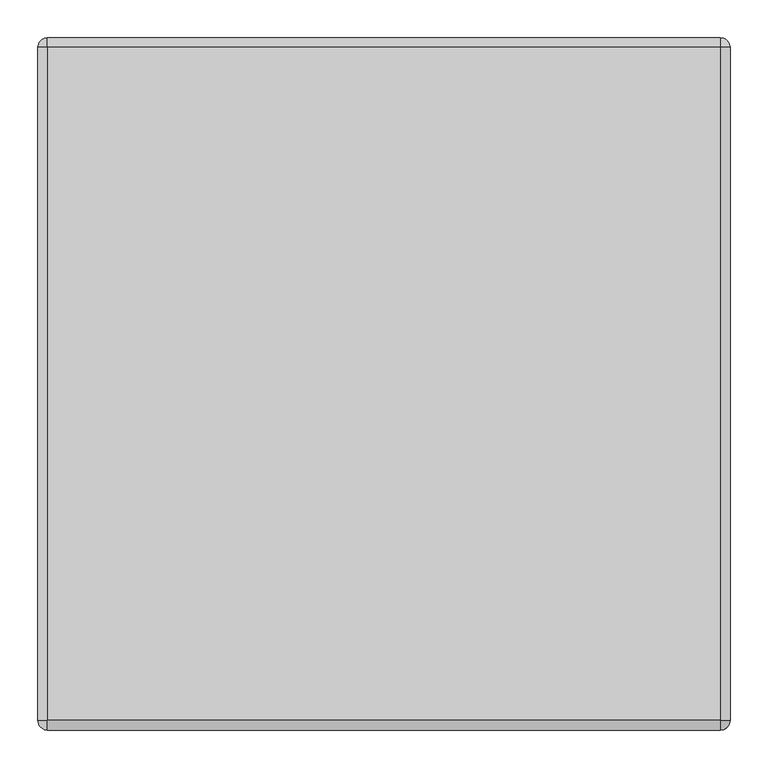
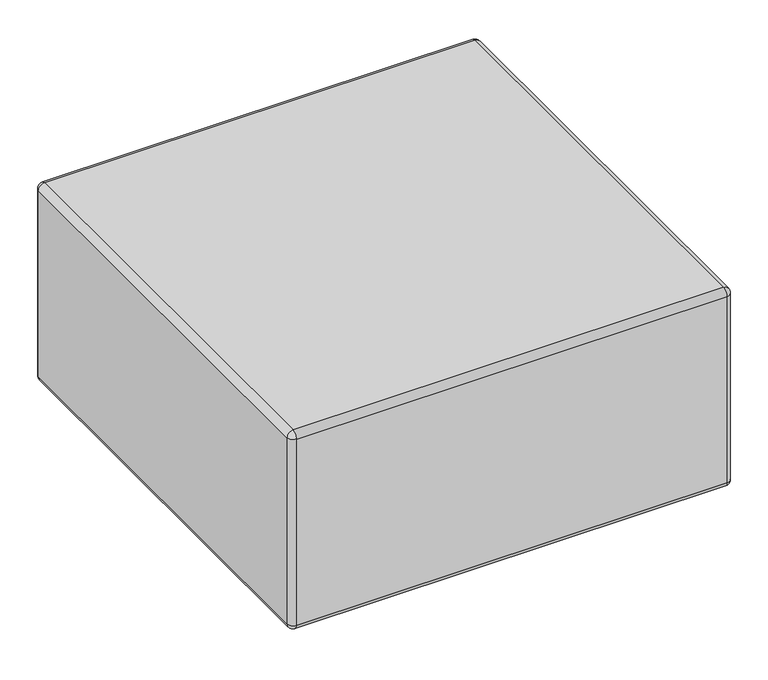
"""IFC4 building model written with IfcOpenShell, lengths in millimetres: furniture geometry, KFI Studios - Conversa : 36”x36” Seat."""

from ifc_helpers import new_model, si_unit, point, frame, origin, place, context, project, spatial, polyline, circle_curve, ellipse_curve, trimmed, source, transform, mapped, element, save
from ifc_brep_helpers import plane_surface, cylinder_surface, revolved_surface, advanced_brep


def furniture_a2253782(model_context):
    return source(origin(), model_context, "Body", "AdvancedBrep", [
        advanced_brep(
        [(373.3895895, 365.125, 25.4), (365.125, 365.125, 25.4), (356.8604105, 365.125, 25.4), (373.3895895, 365.125, 14.2843611), (356.8604105, 365.125, 14.2843611), (371.7876354, 365.125, 14.2843611), (358.4623646, 365.125, 14.2843611), (371.7876354, 365.125, 12.7064551), (358.4623646, 365.125, 12.7064551), (373.3890671, 365.125, 12.7064551), (356.8609329, 365.125, 12.7064551), (382.5741215, 365.125, 3.1950529), (347.6758785, 365.125, 3.1950529), (382.5741215, 365.125, 0.0), (347.6758785, 365.125, 0.0), (365.125, 365.125, 0.0)],
        [
            (0, 1),
            (1, 2),
            (2, 0, circle_curve(frame((365.125, 365.125, 25.4), z_axis=(0.0, 0.0, 1.0), x_axis=(-1.0, 0.0, 0.0)), 8.2645895)),
            (0, 2, circle_curve(frame((365.125, 365.125, 25.4), z_axis=(0.0, 0.0, 1.0), x_axis=(-1.0, 0.0, 0.0)), 8.2645895)),
            (3, 0),
            (2, 4),
            (4, 3, circle_curve(frame((365.125, 365.125, 14.2843611), z_axis=(0.0, 0.0, 1.0), x_axis=(-1.0, 0.0, 0.0)), 8.2645895)),
            (3, 4, circle_curve(frame((365.125, 365.125, 14.2843611), z_axis=(0.0, 0.0, 1.0), x_axis=(-1.0, 0.0, 0.0)), 8.2645895)),
            (5, 3),
            (4, 6),
            (6, 5, circle_curve(frame((365.125, 365.125, 14.2843611), z_axis=(0.0, 0.0, 1.0), x_axis=(-1.0, 0.0, 0.0)), 6.6626354)),
            (5, 6, circle_curve(frame((365.125, 365.125, 14.2843611), z_axis=(0.0, 0.0, 1.0), x_axis=(-1.0, 0.0, 0.0)), 6.6626354)),
            (7, 5),
            (6, 8),
            (8, 7, circle_curve(frame((365.125, 365.125, 12.7064551), z_axis=(0.0, 0.0, 1.0), x_axis=(-1.0, 0.0, 0.0)), 6.6626354)),
            (7, 8, circle_curve(frame((365.125, 365.125, 12.7064551), z_axis=(0.0, 0.0, 1.0), x_axis=(-1.0, 0.0, 0.0)), 6.6626354)),
            (9, 7),
            (8, 10),
            (10, 9, circle_curve(frame((365.125, 365.125, 12.7064551), z_axis=(0.0, 0.0, 1.0), x_axis=(-1.0, 0.0, 0.0)), 8.2640671)),
            (9, 10, circle_curve(frame((365.125, 365.125, 12.7064551), z_axis=(0.0, 0.0, 1.0), x_axis=(-1.0, 0.0, 0.0)), 8.2640671)),
            (11, 9),
            (10, 12),
            (12, 11, circle_curve(frame((365.125, 365.125, 3.1950529), z_axis=(0.0, 0.0, 1.0), x_axis=(-1.0, 0.0, 0.0)), 17.4491215)),
            (11, 12, circle_curve(frame((365.125, 365.125, 3.1950529), z_axis=(0.0, 0.0, 1.0), x_axis=(-1.0, 0.0, 0.0)), 17.4491215)),
            (13, 11),
            (12, 14),
            (14, 13, circle_curve(frame((365.125, 365.125, 0.0), z_axis=(0.0, 0.0, 1.0), x_axis=(-1.0, 0.0, 0.0)), 17.4491215)),
            (13, 14, circle_curve(frame((365.125, 365.125, 0.0), z_axis=(0.0, 0.0, 1.0), x_axis=(-1.0, 0.0, 0.0)), 17.4491215)),
            (15, 13),
            (14, 15),
        ],
        [
            plane_surface(frame((365.125, 365.125, 25.4), z_axis=(0.0, 0.0, 1.0), x_axis=(-1.0, 0.0, 0.0))),
            cylinder_surface(frame((365.125, 365.125, 33.820929), z_axis=(0.0, 0.0, -1.0), x_axis=(-1.0, 0.0, 0.0)), 8.2645895),
            plane_surface(frame((365.125, 365.125, 14.2843611), z_axis=(0.0, 0.0, -1.0), x_axis=(-1.0, 0.0, 0.0))),
            cylinder_surface(frame((365.125, 365.125, 33.820929), z_axis=(0.0, 0.0, -1.0), x_axis=(-1.0, 0.0, 0.0)), 6.6626354),
            plane_surface(frame((365.125, 365.125, 12.7064551), z_axis=(0.0, 0.0, 1.0), x_axis=(-1.0, 0.0, 0.0))),
            revolved_surface(polyline([(356.8609329, 365.125, 12.7064551), (347.6758785, 365.125, 3.1950529)]), (365.125, 365.125, 33.820929), (0.0, 0.0, -1.0)),
            cylinder_surface(frame((365.125, 365.125, 33.820929), z_axis=(0.0, 0.0, -1.0), x_axis=(-1.0, 0.0, 0.0)), 17.4491215),
            plane_surface(frame((365.125, 365.125, 0.0), z_axis=(0.0, 0.0, -1.0), x_axis=(-1.0, 0.0, 0.0))),
        ],
        [
            (0, [[1, 2, 3]]),
            (0, [[-2, -1, 4]]),
            (1, [[5, -3, 6, 7]]),
            (1, [[-6, -4, -5, 8]]),
            (2, [[9, -7, 10, 11]]),
            (2, [[-10, -8, -9, 12]]),
            (3, [[13, -11, 14, 15]]),
            (3, [[-14, -12, -13, 16]]),
            (4, [[17, -15, 18, 19]]),
            (4, [[-18, -16, -17, 20]]),
            (5, [[21, -19, 22, 23]]),
            (5, [[-22, -20, -21, 24]]),
            (6, [[25, -23, 26, 27]]),
            (6, [[-26, -24, -25, 28]]),
            (7, [[29, -27, 30]]),
            (7, [[-30, -28, -29]]),
        ],
    ),
        advanced_brep(
        [(-356.8604105, 365.125, 25.4), (-365.125, 365.125, 25.4), (-373.3895895, 365.125, 25.4), (-356.8604105, 365.125, 14.2843611), (-373.3895895, 365.125, 14.2843611), (-358.4623646, 365.125, 14.2843611), (-371.7876354, 365.125, 14.2843611), (-358.4623646, 365.125, 12.7064551), (-371.7876354, 365.125, 12.7064551), (-356.8609329, 365.125, 12.7064551), (-373.3890671, 365.125, 12.7064551), (-347.6758785, 365.125, 3.1950529), (-382.5741215, 365.125, 3.1950529), (-347.6758785, 365.125, 0.0), (-382.5741215, 365.125, 0.0), (-365.125, 365.125, 0.0)],
        [
            (0, 1),
            (1, 2),
            (2, 0, circle_curve(frame((-365.125, 365.125, 25.4), z_axis=(0.0, 0.0, 1.0), x_axis=(-1.0, 0.0, 0.0)), 8.2645895)),
            (0, 2, circle_curve(frame((-365.125, 365.125, 25.4), z_axis=(0.0, 0.0, 1.0), x_axis=(-1.0, 0.0, 0.0)), 8.2645895)),
            (3, 0),
            (2, 4),
            (4, 3, circle_curve(frame((-365.125, 365.125, 14.2843611), z_axis=(0.0, 0.0, 1.0), x_axis=(-1.0, 0.0, 0.0)), 8.2645895)),
            (3, 4, circle_curve(frame((-365.125, 365.125, 14.2843611), z_axis=(0.0, 0.0, 1.0), x_axis=(-1.0, 0.0, 0.0)), 8.2645895)),
            (5, 3),
            (4, 6),
            (6, 5, circle_curve(frame((-365.125, 365.125, 14.2843611), z_axis=(0.0, 0.0, 1.0), x_axis=(-1.0, 0.0, 0.0)), 6.6626354)),
            (5, 6, circle_curve(frame((-365.125, 365.125, 14.2843611), z_axis=(0.0, 0.0, 1.0), x_axis=(-1.0, 0.0, 0.0)), 6.6626354)),
            (7, 5),
            (6, 8),
            (8, 7, circle_curve(frame((-365.125, 365.125, 12.7064551), z_axis=(0.0, 0.0, 1.0), x_axis=(-1.0, 0.0, 0.0)), 6.6626354)),
            (7, 8, circle_curve(frame((-365.125, 365.125, 12.7064551), z_axis=(0.0, 0.0, 1.0), x_axis=(-1.0, 0.0, 0.0)), 6.6626354)),
            (9, 7),
            (8, 10),
            (10, 9, circle_curve(frame((-365.125, 365.125, 12.7064551), z_axis=(0.0, 0.0, 1.0), x_axis=(-1.0, 0.0, 0.0)), 8.2640671)),
            (9, 10, circle_curve(frame((-365.125, 365.125, 12.7064551), z_axis=(0.0, 0.0, 1.0), x_axis=(-1.0, 0.0, 0.0)), 8.2640671)),
            (11, 9),
            (10, 12),
            (12, 11, circle_curve(frame((-365.125, 365.125, 3.1950529), z_axis=(0.0, 0.0, 1.0), x_axis=(-1.0, 0.0, 0.0)), 17.4491215)),
            (11, 12, circle_curve(frame((-365.125, 365.125, 3.1950529), z_axis=(0.0, 0.0, 1.0), x_axis=(-1.0, 0.0, 0.0)), 17.4491215)),
            (13, 11),
            (12, 14),
            (14, 13, circle_curve(frame((-365.125, 365.125, 0.0), z_axis=(0.0, 0.0, 1.0), x_axis=(-1.0, 0.0, 0.0)), 17.4491215)),
            (13, 14, circle_curve(frame((-365.125, 365.125, 0.0), z_axis=(0.0, 0.0, 1.0), x_axis=(-1.0, 0.0, 0.0)), 17.4491215)),
            (15, 13),
            (14, 15),
        ],
        [
            plane_surface(frame((-365.125, 365.125, 25.4), z_axis=(0.0, 0.0, 1.0), x_axis=(-1.0, 0.0, 0.0))),
            cylinder_surface(frame((-365.125, 365.125, 33.820929), z_axis=(0.0, 0.0, -1.0), x_axis=(-1.0, 0.0, 0.0)), 8.2645895),
            plane_surface(frame((-365.125, 365.125, 14.2843611), z_axis=(0.0, 0.0, -1.0), x_axis=(-1.0, 0.0, 0.0))),
            cylinder_surface(frame((-365.125, 365.125, 33.820929), z_axis=(0.0, 0.0, -1.0), x_axis=(-1.0, 0.0, 0.0)), 6.6626354),
            plane_surface(frame((-365.125, 365.125, 12.7064551), z_axis=(0.0, 0.0, 1.0), x_axis=(-1.0, 0.0, 0.0))),
            revolved_surface(polyline([(-373.3890671, 365.125, 12.7064551), (-382.5741215, 365.125, 3.1950529)]), (-365.125, 365.125, 33.820929), (0.0, 0.0, -1.0)),
            cylinder_surface(frame((-365.125, 365.125, 33.820929), z_axis=(0.0, 0.0, -1.0), x_axis=(-1.0, 0.0, 0.0)), 17.4491215),
            plane_surface(frame((-365.125, 365.125, 0.0), z_axis=(0.0, 0.0, -1.0), x_axis=(-1.0, 0.0, 0.0))),
        ],
        [
            (0, [[1, 2, 3]]),
            (0, [[-2, -1, 4]]),
            (1, [[5, -3, 6, 7]]),
            (1, [[-6, -4, -5, 8]]),
            (2, [[9, -7, 10, 11]]),
            (2, [[-10, -8, -9, 12]]),
            (3, [[13, -11, 14, 15]]),
            (3, [[-14, -12, -13, 16]]),
            (4, [[17, -15, 18, 19]]),
            (4, [[-18, -16, -17, 20]]),
            (5, [[21, -19, 22, 23]]),
            (5, [[-22, -20, -21, 24]]),
            (6, [[25, -23, 26, 27]]),
            (6, [[-26, -24, -25, 28]]),
            (7, [[29, -27, 30]]),
            (7, [[-30, -28, -29]]),
        ],
    ),
        advanced_brep(
        [(373.3895895, -365.125, 25.4), (356.8604105, -365.125, 25.4), (365.125, -365.125, 25.4), (373.3895895, -365.125, 14.2843611), (356.8604105, -365.125, 14.2843611), (371.7876354, -365.125, 14.2843611), (358.4623646, -365.125, 14.2843611), (371.7876354, -365.125, 12.7064551), (358.4623646, -365.125, 12.7064551), (373.3890671, -365.125, 12.7064551), (356.8609329, -365.125, 12.7064551), (382.5741215, -365.125, 3.1950529), (347.6758785, -365.125, 3.1950529), (382.5741215, -365.125, 0.0), (347.6758785, -365.125, 0.0), (365.125, -365.125, 0.0)],
        [
            (0, 1, circle_curve(frame((365.125, -365.125, 25.4), z_axis=(0.0, 0.0, 1.0), x_axis=(-1.0, 0.0, 0.0)), 8.2645895)),
            (1, 2),
            (2, 0),
            (1, 0, circle_curve(frame((365.125, -365.125, 25.4), z_axis=(0.0, 0.0, 1.0), x_axis=(-1.0, 0.0, 0.0)), 8.2645895)),
            (3, 4, circle_curve(frame((365.125, -365.125, 14.2843611), z_axis=(0.0, 0.0, 1.0), x_axis=(-1.0, 0.0, 0.0)), 8.2645895)),
            (4, 1),
            (0, 3),
            (4, 3, circle_curve(frame((365.125, -365.125, 14.2843611), z_axis=(0.0, 0.0, 1.0), x_axis=(-1.0, 0.0, 0.0)), 8.2645895)),
            (5, 6, circle_curve(frame((365.125, -365.125, 14.2843611), z_axis=(0.0, 0.0, 1.0), x_axis=(-1.0, 0.0, 0.0)), 6.6626354)),
            (6, 4),
            (3, 5),
            (6, 5, circle_curve(frame((365.125, -365.125, 14.2843611), z_axis=(0.0, 0.0, 1.0), x_axis=(-1.0, 0.0, 0.0)), 6.6626354)),
            (7, 8, circle_curve(frame((365.125, -365.125, 12.7064551), z_axis=(0.0, 0.0, 1.0), x_axis=(-1.0, 0.0, 0.0)), 6.6626354)),
            (8, 6),
            (5, 7),
            (8, 7, circle_curve(frame((365.125, -365.125, 12.7064551), z_axis=(0.0, 0.0, 1.0), x_axis=(-1.0, 0.0, 0.0)), 6.6626354)),
            (9, 10, circle_curve(frame((365.125, -365.125, 12.7064551), z_axis=(0.0, 0.0, 1.0), x_axis=(-1.0, 0.0, 0.0)), 8.2640671)),
            (10, 8),
            (7, 9),
            (10, 9, circle_curve(frame((365.125, -365.125, 12.7064551), z_axis=(0.0, 0.0, 1.0), x_axis=(-1.0, 0.0, 0.0)), 8.2640671)),
            (11, 12, circle_curve(frame((365.125, -365.125, 3.1950529), z_axis=(0.0, 0.0, 1.0), x_axis=(-1.0, 0.0, 0.0)), 17.4491215)),
            (12, 10),
            (9, 11),
            (12, 11, circle_curve(frame((365.125, -365.125, 3.1950529), z_axis=(0.0, 0.0, 1.0), x_axis=(-1.0, 0.0, 0.0)), 17.4491215)),
            (13, 14, circle_curve(frame((365.125, -365.125, 0.0), z_axis=(0.0, 0.0, 1.0), x_axis=(-1.0, 0.0, 0.0)), 17.4491215)),
            (14, 12),
            (11, 13),
            (14, 13, circle_curve(frame((365.125, -365.125, 0.0), z_axis=(0.0, 0.0, 1.0), x_axis=(-1.0, 0.0, 0.0)), 17.4491215)),
            (15, 14),
            (13, 15),
        ],
        [
            plane_surface(frame((365.125, -365.125, 25.4), z_axis=(0.0, 0.0, 1.0), x_axis=(-1.0, 0.0, 0.0))),
            cylinder_surface(frame((365.125, -365.125, 33.820929), z_axis=(0.0, 0.0, -1.0), x_axis=(-1.0, 0.0, 0.0)), 8.2645895),
            plane_surface(frame((365.125, -365.125, 14.2843611), z_axis=(0.0, 0.0, -1.0), x_axis=(-1.0, 0.0, 0.0))),
            cylinder_surface(frame((365.125, -365.125, 33.820929), z_axis=(0.0, 0.0, -1.0), x_axis=(-1.0, 0.0, 0.0)), 6.6626354),
            plane_surface(frame((365.125, -365.125, 12.7064551), z_axis=(0.0, 0.0, 1.0), x_axis=(-1.0, 0.0, 0.0))),
            revolved_surface(polyline([(356.8609329, -365.125, 12.7064551), (347.6758785, -365.125, 3.1950529)]), (365.125, -365.125, 33.820929), (0.0, 0.0, -1.0)),
            cylinder_surface(frame((365.125, -365.125, 33.820929), z_axis=(0.0, 0.0, -1.0), x_axis=(-1.0, 0.0, 0.0)), 17.4491215),
            plane_surface(frame((365.125, -365.125, 0.0), z_axis=(0.0, 0.0, -1.0), x_axis=(-1.0, 0.0, 0.0))),
        ],
        [
            (0, [[1, 2, 3]]),
            (0, [[4, -3, -2]]),
            (1, [[5, 6, -1, 7]]),
            (1, [[8, -7, -4, -6]]),
            (2, [[9, 10, -5, 11]]),
            (2, [[12, -11, -8, -10]]),
            (3, [[13, 14, -9, 15]]),
            (3, [[16, -15, -12, -14]]),
            (4, [[17, 18, -13, 19]]),
            (4, [[20, -19, -16, -18]]),
            (5, [[21, 22, -17, 23]]),
            (5, [[24, -23, -20, -22]]),
            (6, [[25, 26, -21, 27]]),
            (6, [[28, -27, -24, -26]]),
            (7, [[29, -25, 30]]),
            (7, [[-30, -28, -29]]),
        ],
    ),
        advanced_brep(
        [(-356.8604105, -365.125, 25.4), (-373.3895895, -365.125, 25.4), (-365.125, -365.125, 25.4), (-356.8604105, -365.125, 14.2843611), (-373.3895895, -365.125, 14.2843611), (-358.4623646, -365.125, 14.2843611), (-371.7876354, -365.125, 14.2843611), (-358.4623646, -365.125, 12.7064551), (-371.7876354, -365.125, 12.7064551), (-356.8609329, -365.125, 12.7064551), (-373.3890671, -365.125, 12.7064551), (-347.6758785, -365.125, 3.1950529), (-382.5741215, -365.125, 3.1950529), (-347.6758785, -365.125, 0.0), (-382.5741215, -365.125, 0.0), (-365.125, -365.125, 0.0)],
        [
            (0, 1, circle_curve(frame((-365.125, -365.125, 25.4), z_axis=(0.0, 0.0, 1.0), x_axis=(-1.0, 0.0, 0.0)), 8.2645895)),
            (1, 2),
            (2, 0),
            (1, 0, circle_curve(frame((-365.125, -365.125, 25.4), z_axis=(0.0, 0.0, 1.0), x_axis=(-1.0, 0.0, 0.0)), 8.2645895)),
            (3, 4, circle_curve(frame((-365.125, -365.125, 14.2843611), z_axis=(0.0, 0.0, 1.0), x_axis=(-1.0, 0.0, 0.0)), 8.2645895)),
            (4, 1),
            (0, 3),
            (4, 3, circle_curve(frame((-365.125, -365.125, 14.2843611), z_axis=(0.0, 0.0, 1.0), x_axis=(-1.0, 0.0, 0.0)), 8.2645895)),
            (5, 6, circle_curve(frame((-365.125, -365.125, 14.2843611), z_axis=(0.0, 0.0, 1.0), x_axis=(-1.0, 0.0, 0.0)), 6.6626354)),
            (6, 4),
            (3, 5),
            (6, 5, circle_curve(frame((-365.125, -365.125, 14.2843611), z_axis=(0.0, 0.0, 1.0), x_axis=(-1.0, 0.0, 0.0)), 6.6626354)),
            (7, 8, circle_curve(frame((-365.125, -365.125, 12.7064551), z_axis=(0.0, 0.0, 1.0), x_axis=(-1.0, 0.0, 0.0)), 6.6626354)),
            (8, 6),
            (5, 7),
            (8, 7, circle_curve(frame((-365.125, -365.125, 12.7064551), z_axis=(0.0, 0.0, 1.0), x_axis=(-1.0, 0.0, 0.0)), 6.6626354)),
            (9, 10, circle_curve(frame((-365.125, -365.125, 12.7064551), z_axis=(0.0, 0.0, 1.0), x_axis=(-1.0, 0.0, 0.0)), 8.2640671)),
            (10, 8),
            (7, 9),
            (10, 9, circle_curve(frame((-365.125, -365.125, 12.7064551), z_axis=(0.0, 0.0, 1.0), x_axis=(-1.0, 0.0, 0.0)), 8.2640671)),
            (11, 12, circle_curve(frame((-365.125, -365.125, 3.1950529), z_axis=(0.0, 0.0, 1.0), x_axis=(-1.0, 0.0, 0.0)), 17.4491215)),
            (12, 10),
            (9, 11),
            (12, 11, circle_curve(frame((-365.125, -365.125, 3.1950529), z_axis=(0.0, 0.0, 1.0), x_axis=(-1.0, 0.0, 0.0)), 17.4491215)),
            (13, 14, circle_curve(frame((-365.125, -365.125, 0.0), z_axis=(0.0, 0.0, 1.0), x_axis=(-1.0, 0.0, 0.0)), 17.4491215)),
            (14, 12),
            (11, 13),
            (14, 13, circle_curve(frame((-365.125, -365.125, 0.0), z_axis=(0.0, 0.0, 1.0), x_axis=(-1.0, 0.0, 0.0)), 17.4491215)),
            (15, 14),
            (13, 15),
        ],
        [
            plane_surface(frame((-365.125, -365.125, 25.4), z_axis=(0.0, 0.0, 1.0), x_axis=(-1.0, 0.0, 0.0))),
            cylinder_surface(frame((-365.125, -365.125, 33.820929), z_axis=(0.0, 0.0, -1.0), x_axis=(-1.0, 0.0, 0.0)), 8.2645895),
            plane_surface(frame((-365.125, -365.125, 14.2843611), z_axis=(0.0, 0.0, -1.0), x_axis=(-1.0, 0.0, 0.0))),
            cylinder_surface(frame((-365.125, -365.125, 33.820929), z_axis=(0.0, 0.0, -1.0), x_axis=(-1.0, 0.0, 0.0)), 6.6626354),
            plane_surface(frame((-365.125, -365.125, 12.7064551), z_axis=(0.0, 0.0, 1.0), x_axis=(-1.0, 0.0, 0.0))),
            revolved_surface(polyline([(-373.3890671, -365.125, 12.7064551), (-382.5741215, -365.125, 3.1950529)]), (-365.125, -365.125, 33.820929), (0.0, 0.0, -1.0)),
            cylinder_surface(frame((-365.125, -365.125, 33.820929), z_axis=(0.0, 0.0, -1.0), x_axis=(-1.0, 0.0, 0.0)), 17.4491215),
            plane_surface(frame((-365.125, -365.125, 0.0), z_axis=(0.0, 0.0, -1.0), x_axis=(-1.0, 0.0, 0.0))),
        ],
        [
            (0, [[1, 2, 3]]),
            (0, [[4, -3, -2]]),
            (1, [[5, 6, -1, 7]]),
            (1, [[8, -7, -4, -6]]),
            (2, [[9, 10, -5, 11]]),
            (2, [[12, -11, -8, -10]]),
            (3, [[13, 14, -9, 15]]),
            (3, [[16, -15, -12, -14]]),
            (4, [[17, 18, -13, 19]]),
            (4, [[20, -19, -16, -18]]),
            (5, [[21, 22, -17, 23]]),
            (5, [[24, -23, -20, -22]]),
            (6, [[25, 26, -21, 27]]),
            (6, [[28, -27, -24, -26]]),
            (7, [[29, -25, 30]]),
            (7, [[-30, -28, -29]]),
        ],
    ),
        advanced_brep(
        [(-457.2, 444.5, 444.5), (-457.2, -444.5, 444.5), (-444.5, -444.5, 457.2), (-444.5, 444.5, 457.2), (-457.2, 444.5, 38.1), (-457.2, -444.5, 38.1), (-444.5, 444.5, 25.4), (-444.5, -444.5, 25.4), (-444.5, -457.2, 444.5), (444.5, -457.2, 444.5), (444.5, -444.5, 457.2), (-444.5, -457.2, 38.1), (444.5, -457.2, 38.1), (444.5, -444.5, 25.4), (444.5, 444.5, 457.2), (444.5, 444.5, 25.4), (444.5, 457.2, 444.5), (-444.5, 457.2, 444.5), (444.5, 457.2, 38.1), (-444.5, 457.2, 38.1), (457.2, -444.5, 444.5), (457.2, 444.5, 444.5), (457.2, -444.5, 38.1), (457.2, 444.5, 38.1)],
        [
            (0, 1),
            (1, 2, circle_curve(frame((-444.5, -444.5, 444.5), z_axis=(0.0, 1.0, 0.0), x_axis=(-1.0, 0.0, 0.0)), 12.7)),
            (2, 3),
            (3, 0, circle_curve(frame((-444.5, 444.5, 444.5), z_axis=(0.0, -1.0, 0.0), x_axis=(-1.0, 0.0, 0.0)), 12.7)),
            (0, 4),
            (4, 5),
            (5, 1),
            (4, 6, circle_curve(frame((-444.5, 444.5, 38.1), z_axis=(0.0, -1.0, 0.0), x_axis=(-1.0, 0.0, 0.0)), 12.7)),
            (6, 7),
            (7, 5, circle_curve(frame((-444.5, -444.5, 38.1), z_axis=(0.0, 1.0, 0.0), x_axis=(-1.0, 0.0, 0.0)), 12.7)),
            (8, 9),
            (9, 10, circle_curve(frame((444.5, -444.5, 444.5), z_axis=(-1.0, 0.0, 0.0), x_axis=(0.0, 1.0, 0.0)), 12.7)),
            (10, 2),
            (2, 8, circle_curve(frame((-444.5, -444.5, 444.5), z_axis=(1.0, 0.0, 0.0), x_axis=(0.0, 1.0, 0.0)), 12.7)),
            (8, 11),
            (11, 12),
            (12, 9),
            (11, 7, circle_curve(frame((-444.5, -444.5, 38.1), z_axis=(1.0, 0.0, 0.0), x_axis=(0.0, 1.0, 0.0)), 12.7)),
            (7, 13),
            (13, 12, circle_curve(frame((444.5, -444.5, 38.1), z_axis=(-1.0, 0.0, 0.0), x_axis=(0.0, 1.0, 0.0)), 12.7)),
            (10, 14),
            (14, 3),
            (6, 15),
            (15, 13),
            (16, 17),
            (17, 3, circle_curve(frame((-444.5, 444.5, 444.5), z_axis=(1.0, 0.0, 0.0), x_axis=(0.0, 1.0, 0.0)), 12.7)),
            (14, 16, circle_curve(frame((444.5, 444.5, 444.5), z_axis=(-1.0, 0.0, 0.0), x_axis=(0.0, 1.0, 0.0)), 12.7)),
            (16, 18),
            (18, 19),
            (19, 17),
            (18, 15, circle_curve(frame((444.5, 444.5, 38.1), z_axis=(-1.0, 0.0, 0.0), x_axis=(0.0, 1.0, 0.0)), 12.7)),
            (6, 19, circle_curve(frame((-444.5, 444.5, 38.1), z_axis=(1.0, 0.0, 0.0), x_axis=(0.0, 1.0, 0.0)), 12.7)),
            (20, 21),
            (21, 14, circle_curve(frame((444.5, 444.5, 444.5), z_axis=(0.0, -1.0, 0.0), x_axis=(-1.0, 0.0, 0.0)), 12.7)),
            (10, 20, circle_curve(frame((444.5, -444.5, 444.5), z_axis=(0.0, 1.0, 0.0), x_axis=(-1.0, 0.0, 0.0)), 12.7)),
            (20, 22),
            (22, 23),
            (23, 21),
            (22, 13, circle_curve(frame((444.5, -444.5, 38.1), z_axis=(0.0, 1.0, 0.0), x_axis=(-1.0, 0.0, 0.0)), 12.7)),
            (15, 23, circle_curve(frame((444.5, 444.5, 38.1), z_axis=(0.0, -1.0, 0.0), x_axis=(-1.0, 0.0, 0.0)), 12.7)),
            (19, 4, circle_curve(frame((-444.5, 444.5, 38.1), z_axis=(0.0, 0.0, 1.0), x_axis=(-1.0, 0.0, 0.0)), 12.7)),
            (0, 17, circle_curve(frame((-444.5, 444.5, 444.5), z_axis=(0.0, 0.0, -1.0), x_axis=(-1.0, 0.0, 0.0)), 12.7)),
            (8, 1, circle_curve(frame((-444.5, -444.5, 444.5), z_axis=(0.0, 0.0, -1.0), x_axis=(-1.0, 0.0, 0.0)), 12.7)),
            (5, 11, circle_curve(frame((-444.5, -444.5, 38.1), z_axis=(0.0, 0.0, 1.0), x_axis=(-1.0, 0.0, 0.0)), 12.7)),
            (12, 22, circle_curve(frame((444.5, -444.5, 38.1), z_axis=(0.0, 0.0, 1.0), x_axis=(1.0, 0.0, 0.0)), 12.7)),
            (20, 9, circle_curve(frame((444.5, -444.5, 444.5), z_axis=(0.0, 0.0, -1.0), x_axis=(1.0, 0.0, 0.0)), 12.7)),
            (16, 21, circle_curve(frame((444.5, 444.5, 444.5), z_axis=(0.0, 0.0, -1.0), x_axis=(1.0, 0.0, 0.0)), 12.7)),
            (23, 18, circle_curve(frame((444.5, 444.5, 38.1), z_axis=(0.0, 0.0, 1.0), x_axis=(1.0, 0.0, 0.0)), 12.7)),
        ],
        [
            cylinder_surface(frame((-444.5, -444.5, 444.5), z_axis=(0.0, -1.0, 0.0), x_axis=(-1.0, 0.0, 0.0)), 12.7),
            plane_surface(frame((-457.2, -444.5, 444.5), z_axis=(-1.0, 0.0, 0.0), x_axis=(0.0, 1.0, 0.0))),
            cylinder_surface(frame((-444.5, -444.5, 38.1), z_axis=(0.0, -1.0, 0.0), x_axis=(-1.0, 0.0, 0.0)), 12.7),
            cylinder_surface(frame((-444.5, -444.5, 444.5), z_axis=(-1.0, 0.0, 0.0), x_axis=(0.0, 1.0, 0.0)), 12.7),
            plane_surface(frame((-444.5, -457.2, 38.1), z_axis=(0.0, -1.0, 0.0), x_axis=(1.0, 0.0, 0.0))),
            cylinder_surface(frame((-444.5, -444.5, 38.1), z_axis=(-1.0, 0.0, 0.0), x_axis=(0.0, 1.0, 0.0)), 12.7),
            plane_surface(frame((-444.5, 444.5, 457.2), z_axis=(0.0, 0.0, 1.0), x_axis=(-1.0, 0.0, 0.0))),
            plane_surface(frame((-444.5, 444.5, 25.4), z_axis=(0.0, 0.0, -1.0), x_axis=(1.0, 0.0, 0.0))),
            cylinder_surface(frame((-444.5, 444.5, 444.5), z_axis=(-1.0, 0.0, 0.0), x_axis=(0.0, 1.0, 0.0)), 12.7),
            plane_surface(frame((-444.5, 457.2, 444.5), z_axis=(0.0, 1.0, 0.0), x_axis=(1.0, 0.0, 0.0))),
            cylinder_surface(frame((-444.5, 444.5, 38.1), z_axis=(-1.0, 0.0, 0.0), x_axis=(0.0, 1.0, 0.0)), 12.7),
            cylinder_surface(frame((444.5, -444.5, 444.5), z_axis=(0.0, -1.0, 0.0), x_axis=(-1.0, 0.0, 0.0)), 12.7),
            plane_surface(frame((457.2, -444.5, 38.1), z_axis=(1.0, 0.0, 0.0), x_axis=(0.0, 1.0, 0.0))),
            cylinder_surface(frame((444.5, -444.5, 38.1), z_axis=(0.0, -1.0, 0.0), x_axis=(-1.0, 0.0, 0.0)), 12.7),
            cylinder_surface(frame((-444.5, 444.5, 457.2), z_axis=(0.0, 0.0, 1.0), x_axis=(-1.0, 0.0, 0.0)), 12.7),
            revolved_surface(trimmed(ellipse_curve(frame((-444.5, 444.5, 38.1), z_axis=(0.0, 1.0, 0.0), x_axis=(0.0, 0.0, 1.0)), 12.7, 12.7), [point((-444.5, 444.5, 25.4))], [point((-457.2, 444.5, 38.1))], True, "CARTESIAN"), (-444.5, 444.5, 457.2), (0.0, 0.0, 1.0)),
            revolved_surface(trimmed(ellipse_curve(frame((-444.5, 444.5, 444.5), z_axis=(0.0, 1.0, 0.0), x_axis=(0.0, 0.0, 1.0)), 12.7, 12.7), [point((-457.2, 444.5, 444.5))], [point((-444.5, 444.5, 457.2))], True, "CARTESIAN"), (-444.5, 444.5, 457.2), (0.0, 0.0, 1.0)),
            cylinder_surface(frame((-444.5, -444.5, 306.9189642), z_axis=(0.0, 0.0, -1.0), x_axis=(-1.0, 0.0, 0.0)), 12.7),
            revolved_surface(trimmed(ellipse_curve(frame((-444.5, -444.5, 444.5), z_axis=(0.0, -1.0, 0.0), x_axis=(1.0, 0.0, 0.0)), 12.7, 12.7), [point((-444.5, -444.5, 457.2))], [point((-457.2, -444.5, 444.5))], True, "CARTESIAN"), (-444.5, -444.5, 306.9189642), (0.0, 0.0, -1.0)),
            revolved_surface(trimmed(ellipse_curve(frame((-444.5, -444.5, 38.1), z_axis=(0.0, -1.0, 0.0), x_axis=(1.0, 0.0, 0.0)), 12.7, 12.7), [point((-457.2, -444.5, 38.1))], [point((-444.5, -444.5, 25.4))], True, "CARTESIAN"), (-444.5, -444.5, 306.9189642), (0.0, 0.0, -1.0)),
            cylinder_surface(frame((444.5, -444.5, 457.2), z_axis=(0.0, 0.0, 1.0), x_axis=(1.0, 0.0, 0.0)), 12.7),
            revolved_surface(trimmed(ellipse_curve(frame((444.5, -444.5, 38.1), z_axis=(0.0, -1.0, 0.0), x_axis=(1.0, 0.0, 0.0)), 12.7, 12.7), [point((444.5, -444.5, 25.4))], [point((457.2, -444.5, 38.1))], True, "CARTESIAN"), (444.5, -444.5, 457.2), (0.0, 0.0, 1.0)),
            revolved_surface(trimmed(ellipse_curve(frame((444.5, -444.5, 444.5), z_axis=(0.0, -1.0, 0.0), x_axis=(1.0, 0.0, 0.0)), 12.7, 12.7), [point((457.2, -444.5, 444.5))], [point((444.5, -444.5, 457.2))], True, "CARTESIAN"), (444.5, -444.5, 457.2), (0.0, 0.0, 1.0)),
            cylinder_surface(frame((444.5, 444.5, 306.9189642), z_axis=(0.0, 0.0, -1.0), x_axis=(1.0, 0.0, 0.0)), 12.7),
            revolved_surface(trimmed(ellipse_curve(frame((444.5, 444.5, 444.5), z_axis=(0.0, 1.0, 0.0), x_axis=(0.0, 0.0, 1.0)), 12.7, 12.7), [point((444.5, 444.5, 457.2))], [point((457.2, 444.5, 444.5))], True, "CARTESIAN"), (444.5, 444.5, 306.9189642), (0.0, 0.0, -1.0)),
            revolved_surface(trimmed(ellipse_curve(frame((444.5, 444.5, 38.1), z_axis=(0.0, 1.0, 0.0), x_axis=(0.0, 0.0, 1.0)), 12.7, 12.7), [point((457.2, 444.5, 38.1))], [point((444.5, 444.5, 25.4))], True, "CARTESIAN"), (444.5, 444.5, 306.9189642), (0.0, 0.0, -1.0)),
        ],
        [
            (0, [[1, 2, 3, 4]]),
            (1, [[-1, 5, 6, 7]]),
            (2, [[-6, 8, 9, 10]]),
            (3, [[11, 12, 13, 14]]),
            (4, [[-11, 15, 16, 17]]),
            (5, [[-16, 18, 19, 20]]),
            (6, [[-3, -13, 21, 22]]),
            (7, [[-9, 23, 24, -19]]),
            (8, [[25, 26, -22, 27]]),
            (9, [[-25, 28, 29, 30]]),
            (10, [[-29, 31, -23, 32]]),
            (11, [[33, 34, -21, 35]]),
            (12, [[-33, 36, 37, 38]]),
            (13, [[-37, 39, -24, 40]]),
            (14, [[41, -5, 42, -30]]),
            (15, [[-41, -32, -8]]),
            (16, [[-42, -4, -26]]),
            (17, [[43, -7, 44, -15]]),
            (18, [[-43, -14, -2]]),
            (19, [[-44, -10, -18]]),
            (20, [[45, -36, 46, -17]]),
            (21, [[-45, -20, -39]]),
            (22, [[-46, -35, -12]]),
            (23, [[47, -38, 48, -28]]),
            (24, [[-47, -27, -34]]),
            (25, [[-48, -40, -31]]),
        ],
    ),
    ])


if __name__ == "__main__":
    model = new_model("IFC4")
    model_context = context("Model", 3, world=origin())
    ifc_project = project(units=[si_unit("LENGTHUNIT", "METRE", prefix="MILLI")], contexts=[model_context])
    site = spatial("IfcSite", under=ifc_project)
    building = spatial("IfcBuilding", under=site)
    placement = place(None, origin())
    furniture_shape = furniture_a2253782(model_context)
    element("IfcFurniture", 1, ObjectType="KFI Studios - Conversa : 36”x36” Seat", at=placement, inside=building, context=model_context, shape_type="MappedRepresentation", body=[
        mapped(furniture_shape, transform((0.0, 0.0, 0.0), x_axis=(1.0, 0.0, 0.0), y_axis=(0.0, 1.0, 0.0), z_axis=(0.0, 0.0, 1.0))),
    ])
    save(model, "model.ifc")
